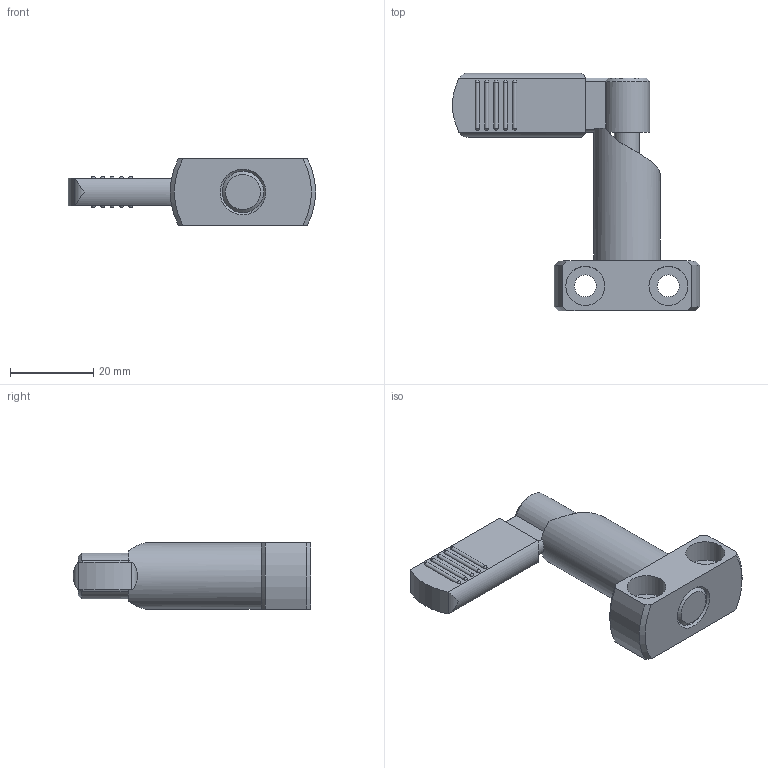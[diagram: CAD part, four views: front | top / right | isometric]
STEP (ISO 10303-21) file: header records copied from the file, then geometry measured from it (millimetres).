
FILE_DESCRIPTION( ( 'STEP AP203' ), '1' );
FILE_NAME( 'C:/Temp/Ganter_Step_05_03_2020/data/3_1/gn612_2/Indexing plunger GN 612.2-10-16-B (activated).stp', '2020-03-12T08:35:12', ( 'License CC BY-ND 4.0' ), ( 'CADENAS' ), ' ', 'PARTsolutions', ' ' );
FILE_SCHEMA( ( 'CONFIG_CONTROL_DESIGN' ) );
Length unit declared in the file: millimetre
Products named in the file (3): Indexing plunger GN 612.2-10-16-B (activated); _Rastriegel GN 612.2-10-16-B (betaetigt)-a; _Rastriegel GN 612.2-10-16-B (betaetigt)-b
Assembly tree (2 placements, depth 2):
  Indexing plunger GN 612.2-10-16-B (activated)
    _Rastriegel GN 612.2-10-16-B (betaetigt)-a
    _Rastriegel GN 612.2-10-16-B (betaetigt)-b
Bounding box: 59.5 x 57.25 x 16 mm (x, y, z)
Volume: 14209.6 mm3; surface area: 8800.9 mm2
Topology: 2 solids, 2 shells, 101 faces, 262 edges, 165 vertices
Faces by surface type: cylinder 43, plane 28, sphere 20, cone 9, torus 1
Full cylindrical faces by diameter (mm): 5.3 x2, 6 x2, 7.4 x1, 7.6 x1, 9.4 x4, 10 x2, 11 x1, 12 x1, 16 x1
Entity records: 3035 total; most frequent: CARTESIAN_POINT 748, DIRECTION 471, ORIENTED_EDGE 402, AXIS2_PLACEMENT_3D 204, EDGE_CURVE 201, EDGE_LOOP 146, VERTEX_POINT 143, FACE_OUTER_BOUND 116
